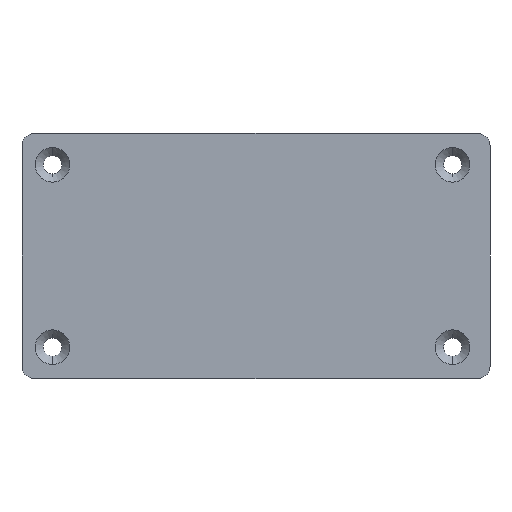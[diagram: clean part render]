
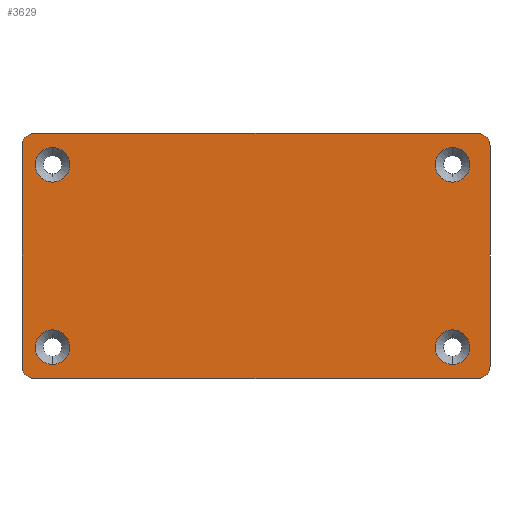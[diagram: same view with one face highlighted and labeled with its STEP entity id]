
A CAD part, front view. The second image highlights one B-rep face of the part: STEP entity #3629.
In plain terms, the highlighted planar face has unit normal (0, -1, 0).
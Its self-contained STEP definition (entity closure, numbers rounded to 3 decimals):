
#15 = AXIS2_PLACEMENT_3D ( 'NONE', #4756, #186, #1399 ) ;
#82 = AXIS2_PLACEMENT_3D ( 'NONE', #3590, #138, #3115 ) ;
#96 = ORIENTED_EDGE ( 'NONE', *, *, #2667, .F. ) ;
#104 = DIRECTION ( 'NONE',  ( 0., 0., -1. ) ) ;
#138 = DIRECTION ( 'NONE',  ( 0., -1., 0. ) ) ;
#186 = DIRECTION ( 'NONE',  ( 0., -1., 0. ) ) ;
#187 = CARTESIAN_POINT ( 'NONE',  ( 31.95, -6., 17.25 ) ) ;
#252 = EDGE_CURVE ( 'NONE', #1547, #882, #4252, .T. ) ;
#385 = ORIENTED_EDGE ( 'NONE', *, *, #2910, .F. ) ;
#398 = DIRECTION ( 'NONE',  ( 0., 0., -1. ) ) ;
#429 = DIRECTION ( 'NONE',  ( 0., 0., -1. ) ) ;
#435 = DIRECTION ( 'NONE',  ( 0., 0., -1. ) ) ;
#437 = ORIENTED_EDGE ( 'NONE', *, *, #3725, .F. ) ;
#483 = LINE ( 'NONE', #3438, #3975 ) ;
#518 = DIRECTION ( 'NONE',  ( 0., -1., 0. ) ) ;
#570 = CIRCLE ( 'NONE', #4493, 2.75 ) ;
#574 = CIRCLE ( 'NONE', #1450, 2.75 ) ;
#596 = CARTESIAN_POINT ( 'NONE',  ( -34.5, -6., -19.5 ) ) ;
#700 = ORIENTED_EDGE ( 'NONE', *, *, #4103, .F. ) ;
#748 = EDGE_LOOP ( 'NONE', ( #4518, #700 ) ) ;
#785 = ORIENTED_EDGE ( 'NONE', *, *, #3211, .T. ) ;
#833 = ORIENTED_EDGE ( 'NONE', *, *, #851, .T. ) ;
#851 = EDGE_CURVE ( 'NONE', #4661, #1877, #2923, .T. ) ;
#882 = VERTEX_POINT ( 'NONE', #2254 ) ;
#931 = VERTEX_POINT ( 'NONE', #4139 ) ;
#945 = CARTESIAN_POINT ( 'NONE',  ( 35.9, -6., 19.5 ) ) ;
#982 = CARTESIAN_POINT ( 'NONE',  ( 31.95, -6., 11.75 ) ) ;
#989 = CARTESIAN_POINT ( 'NONE',  ( -34.5, -6., 17.5 ) ) ;
#1043 = EDGE_CURVE ( 'NONE', #1877, #2410, #483, .T. ) ;
#1069 = VERTEX_POINT ( 'NONE', #187 ) ;
#1089 = LINE ( 'NONE', #2226, #3997 ) ;
#1164 = DIRECTION ( 'NONE',  ( 0., 0., -1. ) ) ;
#1217 = CARTESIAN_POINT ( 'NONE',  ( 31.95, -6., -14.5 ) ) ;
#1224 = VERTEX_POINT ( 'NONE', #3474 ) ;
#1227 = AXIS2_PLACEMENT_3D ( 'NONE', #4638, #2735, #4714 ) ;
#1382 = ORIENTED_EDGE ( 'NONE', *, *, #3786, .F. ) ;
#1399 = DIRECTION ( 'NONE',  ( 0., 0., -1. ) ) ;
#1446 = AXIS2_PLACEMENT_3D ( 'NONE', #1217, #2734, #3933 ) ;
#1450 = AXIS2_PLACEMENT_3D ( 'NONE', #4678, #3072, #104 ) ;
#1455 = PLANE ( 'NONE',  #2803 ) ;
#1527 = VERTEX_POINT ( 'NONE', #945 ) ;
#1530 = FACE_BOUND ( 'NONE', #3977, .T. ) ;
#1532 = CARTESIAN_POINT ( 'NONE',  ( -34.5, -6., 19.5 ) ) ;
#1547 = VERTEX_POINT ( 'NONE', #596 ) ;
#1664 = DIRECTION ( 'NONE',  ( 1., 0., 0. ) ) ;
#1692 = CIRCLE ( 'NONE', #2246, 2. ) ;
#1699 = CARTESIAN_POINT ( 'NONE',  ( 31.95, -6., 14.5 ) ) ;
#1723 = CARTESIAN_POINT ( 'NONE',  ( -31.65, -6., 11.75 ) ) ;
#1780 = DIRECTION ( 'NONE',  ( 0., 0., -1. ) ) ;
#1877 = VERTEX_POINT ( 'NONE', #3164 ) ;
#1920 = CARTESIAN_POINT ( 'NONE',  ( 37.9, -6., 19.5 ) ) ;
#1962 = DIRECTION ( 'NONE',  ( 0., 0., -1. ) ) ;
#2040 = AXIS2_PLACEMENT_3D ( 'NONE', #989, #4040, #1780 ) ;
#2113 = VECTOR ( 'NONE', #1664, 1000. ) ;
#2134 = CARTESIAN_POINT ( 'NONE',  ( 35.9, -6., 17.5 ) ) ;
#2140 = ORIENTED_EDGE ( 'NONE', *, *, #1043, .T. ) ;
#2148 = EDGE_LOOP ( 'NONE', ( #385, #4268 ) ) ;
#2174 = VERTEX_POINT ( 'NONE', #982 ) ;
#2185 = EDGE_CURVE ( 'NONE', #882, #4072, #2378, .T. ) ;
#2201 = VERTEX_POINT ( 'NONE', #3981 ) ;
#2215 = AXIS2_PLACEMENT_3D ( 'NONE', #4009, #4357, #4755 ) ;
#2226 = CARTESIAN_POINT ( 'NONE',  ( 34.5, -6., 19.5 ) ) ;
#2246 = AXIS2_PLACEMENT_3D ( 'NONE', #2134, #518, #4372 ) ;
#2254 = CARTESIAN_POINT ( 'NONE',  ( 35.9, -6., -19.5 ) ) ;
#2326 = CARTESIAN_POINT ( 'NONE',  ( 37.9, -6., 17.5 ) ) ;
#2352 = ORIENTED_EDGE ( 'NONE', *, *, #2185, .T. ) ;
#2360 = CARTESIAN_POINT ( 'NONE',  ( -31.65, -6., -14.5 ) ) ;
#2378 = CIRCLE ( 'NONE', #2215, 2. ) ;
#2387 = CIRCLE ( 'NONE', #82, 2.75 ) ;
#2393 = CIRCLE ( 'NONE', #1446, 2.75 ) ;
#2410 = VERTEX_POINT ( 'NONE', #3832 ) ;
#2576 = ORIENTED_EDGE ( 'NONE', *, *, #3391, .T. ) ;
#2667 = EDGE_CURVE ( 'NONE', #1069, #2174, #4230, .T. ) ;
#2672 = FACE_OUTER_BOUND ( 'NONE', #3209, .T. ) ;
#2727 = VERTEX_POINT ( 'NONE', #3817 ) ;
#2729 = DIRECTION ( 'NONE',  ( 0., -1., 0. ) ) ;
#2734 = DIRECTION ( 'NONE',  ( 0., -1., 0. ) ) ;
#2735 = DIRECTION ( 'NONE',  ( 0., -1., 0. ) ) ;
#2803 = AXIS2_PLACEMENT_3D ( 'NONE', #4605, #2729, #1962 ) ;
#2818 = CARTESIAN_POINT ( 'NONE',  ( -34.5, -6., -19.5 ) ) ;
#2910 = EDGE_CURVE ( 'NONE', #3497, #2727, #2387, .T. ) ;
#2923 = CIRCLE ( 'NONE', #2040, 2. ) ;
#3009 = DIRECTION ( 'NONE',  ( -1., 0., 0. ) ) ;
#3047 = CIRCLE ( 'NONE', #3927, 2.75 ) ;
#3054 = EDGE_LOOP ( 'NONE', ( #1382, #96 ) ) ;
#3072 = DIRECTION ( 'NONE',  ( 0., -1., 0. ) ) ;
#3081 = ORIENTED_EDGE ( 'NONE', *, *, #3734, .F. ) ;
#3115 = DIRECTION ( 'NONE',  ( 0., 0., -1. ) ) ;
#3124 = CARTESIAN_POINT ( 'NONE',  ( 37.9, -6., -17.5 ) ) ;
#3164 = CARTESIAN_POINT ( 'NONE',  ( -36.5, -6., 17.5 ) ) ;
#3209 = EDGE_LOOP ( 'NONE', ( #4820, #2352, #437, #4613, #785, #833, #2140, #2576 ) ) ;
#3211 = EDGE_CURVE ( 'NONE', #1527, #4661, #1089, .T. ) ;
#3302 = VERTEX_POINT ( 'NONE', #2326 ) ;
#3353 = EDGE_CURVE ( 'NONE', #1224, #4733, #2393, .T. ) ;
#3391 = EDGE_CURVE ( 'NONE', #2410, #1547, #3602, .T. ) ;
#3393 = DIRECTION ( 'NONE',  ( 0., -1., 0. ) ) ;
#3438 = CARTESIAN_POINT ( 'NONE',  ( -36.5, -6., 17.5 ) ) ;
#3474 = CARTESIAN_POINT ( 'NONE',  ( 31.95, -6., -17.25 ) ) ;
#3497 = VERTEX_POINT ( 'NONE', #1723 ) ;
#3533 = DIRECTION ( 'NONE',  ( 0., 0., -1. ) ) ;
#3590 = CARTESIAN_POINT ( 'NONE',  ( -31.65, -6., 14.5 ) ) ;
#3602 = CIRCLE ( 'NONE', #15, 2. ) ;
#3627 = DIRECTION ( 'NONE',  ( 0., -1., 0. ) ) ;
#3629 = ADVANCED_FACE ( 'NONE', ( #1530, #4879, #4928, #4184, #2672 ), #1455, .T. ) ;
#3725 = EDGE_CURVE ( 'NONE', #3302, #4072, #3860, .T. ) ;
#3734 = EDGE_CURVE ( 'NONE', #4733, #1224, #4650, .T. ) ;
#3786 = EDGE_CURVE ( 'NONE', #2174, #1069, #570, .T. ) ;
#3817 = CARTESIAN_POINT ( 'NONE',  ( -31.65, -6., 17.25 ) ) ;
#3832 = CARTESIAN_POINT ( 'NONE',  ( -36.5, -6., -17.5 ) ) ;
#3852 = DIRECTION ( 'NONE',  ( 0., -1., 0. ) ) ;
#3860 = LINE ( 'NONE', #1920, #3922 ) ;
#3922 = VECTOR ( 'NONE', #435, 1000. ) ;
#3927 = AXIS2_PLACEMENT_3D ( 'NONE', #2360, #3852, #429 ) ;
#3929 = CARTESIAN_POINT ( 'NONE',  ( 31.95, -6., -14.5 ) ) ;
#3933 = DIRECTION ( 'NONE',  ( 0., 0., -1. ) ) ;
#3975 = VECTOR ( 'NONE', #1164, 1000. ) ;
#3977 = EDGE_LOOP ( 'NONE', ( #4101, #3081 ) ) ;
#3981 = CARTESIAN_POINT ( 'NONE',  ( -31.65, -6., -11.75 ) ) ;
#3997 = VECTOR ( 'NONE', #3009, 1000. ) ;
#4009 = CARTESIAN_POINT ( 'NONE',  ( 35.9, -6., -17.5 ) ) ;
#4021 = EDGE_CURVE ( 'NONE', #931, #2201, #574, .T. ) ;
#4040 = DIRECTION ( 'NONE',  ( 0., -1., 0. ) ) ;
#4072 = VERTEX_POINT ( 'NONE', #3124 ) ;
#4101 = ORIENTED_EDGE ( 'NONE', *, *, #3353, .F. ) ;
#4103 = EDGE_CURVE ( 'NONE', #2201, #931, #3047, .T. ) ;
#4139 = CARTESIAN_POINT ( 'NONE',  ( -31.65, -6., -17.25 ) ) ;
#4171 = CARTESIAN_POINT ( 'NONE',  ( 31.95, -6., 14.5 ) ) ;
#4177 = EDGE_CURVE ( 'NONE', #3302, #1527, #1692, .T. ) ;
#4184 = FACE_BOUND ( 'NONE', #3054, .T. ) ;
#4230 = CIRCLE ( 'NONE', #4867, 2.75 ) ;
#4252 = LINE ( 'NONE', #2818, #2113 ) ;
#4268 = ORIENTED_EDGE ( 'NONE', *, *, #4437, .F. ) ;
#4335 = CIRCLE ( 'NONE', #1227, 2.75 ) ;
#4355 = DIRECTION ( 'NONE',  ( 0., 0., -1. ) ) ;
#4357 = DIRECTION ( 'NONE',  ( 0., -1., 0. ) ) ;
#4372 = DIRECTION ( 'NONE',  ( 0., 0., -1. ) ) ;
#4437 = EDGE_CURVE ( 'NONE', #2727, #3497, #4335, .T. ) ;
#4493 = AXIS2_PLACEMENT_3D ( 'NONE', #1699, #3627, #4355 ) ;
#4518 = ORIENTED_EDGE ( 'NONE', *, *, #4021, .F. ) ;
#4562 = CARTESIAN_POINT ( 'NONE',  ( 31.95, -6., -11.75 ) ) ;
#4605 = CARTESIAN_POINT ( 'NONE',  ( -34.5, -6., -17.5 ) ) ;
#4613 = ORIENTED_EDGE ( 'NONE', *, *, #4177, .T. ) ;
#4633 = DIRECTION ( 'NONE',  ( 0., -1., 0. ) ) ;
#4638 = CARTESIAN_POINT ( 'NONE',  ( -31.65, -6., 14.5 ) ) ;
#4650 = CIRCLE ( 'NONE', #4882, 2.75 ) ;
#4661 = VERTEX_POINT ( 'NONE', #1532 ) ;
#4678 = CARTESIAN_POINT ( 'NONE',  ( -31.65, -6., -14.5 ) ) ;
#4714 = DIRECTION ( 'NONE',  ( 0., 0., -1. ) ) ;
#4733 = VERTEX_POINT ( 'NONE', #4562 ) ;
#4755 = DIRECTION ( 'NONE',  ( 0., 0., -1. ) ) ;
#4756 = CARTESIAN_POINT ( 'NONE',  ( -34.5, -6., -17.5 ) ) ;
#4820 = ORIENTED_EDGE ( 'NONE', *, *, #252, .T. ) ;
#4867 = AXIS2_PLACEMENT_3D ( 'NONE', #4171, #3393, #398 ) ;
#4879 = FACE_BOUND ( 'NONE', #748, .T. ) ;
#4882 = AXIS2_PLACEMENT_3D ( 'NONE', #3929, #4633, #3533 ) ;
#4928 = FACE_BOUND ( 'NONE', #2148, .T. ) ;
